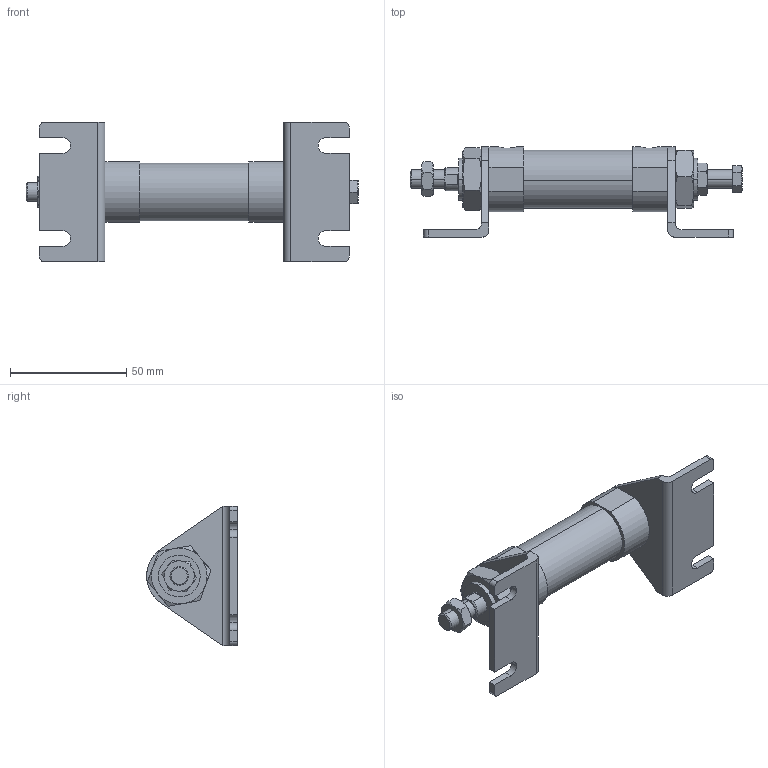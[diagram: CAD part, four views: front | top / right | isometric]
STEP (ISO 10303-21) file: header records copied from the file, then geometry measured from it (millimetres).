
FILE_DESCRIPTION (( 'STEP AP203' ), '1' );
FILE_NAME ('JGA2-20-15-L.STEP', '2016-04-20T05:04:34', ( '' ), ( '' ), 'SwSTEP 2.0', 'SolidWorks 2014', '' );
FILE_SCHEMA (( 'CONFIG_CONTROL_DESIGN' ));
Length unit declared in the file: millimetre
Products named in the file (7): JGLH2-20B; J#2-20-L; M8x1.25-5mm; JGA2-20A; 20-15; M18x1.5-8mm; JGA2-20-15-L
Assembly tree (8 placements, depth 2):
  JGA2-20-15-L
    JGLH2-20B
    20-15
    JGA2-20A
    M8x1.25-5mm
    M18x1.5-8mm  x2
    J#2-20-L  x2
Bounding box: 143 x 39 x 60 mm (x, y, z)
Volume: 70744 mm3; surface area: 29084.9 mm2
Topology: 8 solids, 8 shells, 197 faces, 454 edges, 284 vertices
Faces by surface type: plane 91, cylinder 54, torus 48, cone 4
Entity records: 5482 total; most frequent: CARTESIAN_POINT 1424, DIRECTION 691, ORIENTED_EDGE 666, EDGE_CURVE 333, AXIS2_PLACEMENT_3D 279, VERTEX_POINT 208, EDGE_LOOP 165, FACE_OUTER_BOUND 148
